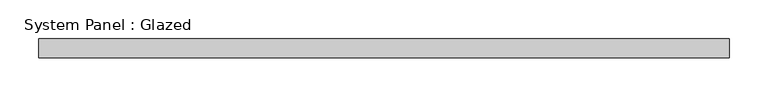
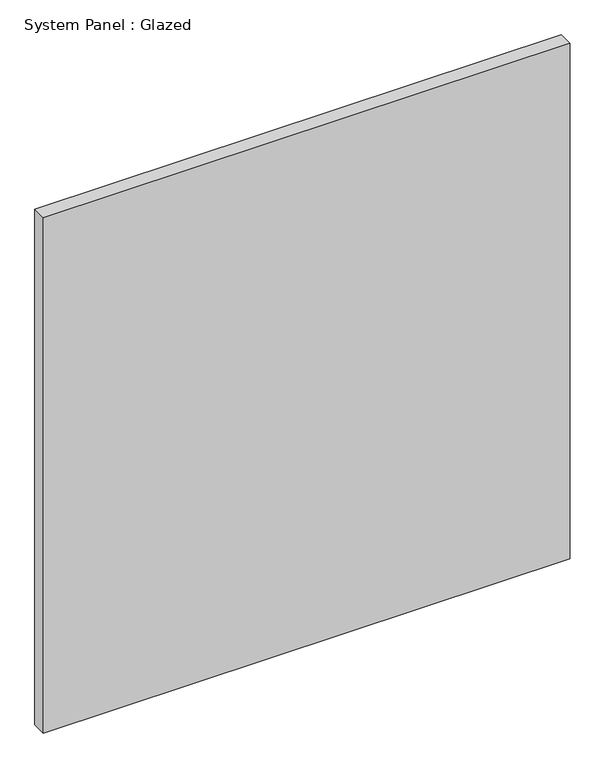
"""IFC4 building model written with IfcOpenShell, lengths in millimetres: plate geometry, System Panel : Glazed."""

from ifc_helpers import new_model, si_unit, origin, origin_with_axes, place, context, project, spatial, polyline, outline, extrude, source, transform, mapped, element, save


def system_panel_glazed_eda91ae9(model_context):
    return source(origin(), model_context, "Body", "SweptSolid", [
        extrude(outline(polyline([(447.9999975, -72.5), (-447.9999975, -72.5), (-447.9999975, -47.5), (447.9999975, -47.5), (447.9999975, -72.5)])), origin_with_axes(), (0.0, 0.0, 1.0), 926.3515371),
    ])


if __name__ == "__main__":
    model = new_model("IFC4")
    model_context = context("Model", 3, world=origin())
    ifc_project = project(units=[si_unit("LENGTHUNIT", "METRE", prefix="MILLI")], contexts=[model_context])
    site = spatial("IfcSite", under=ifc_project)
    building = spatial("IfcBuilding", under=site)
    placement = place(None, origin())
    system_panel_glazed_shape = system_panel_glazed_eda91ae9(model_context)
    element("IfcPlate", 1, ObjectType="System Panel : Glazed", at=placement, inside=building, context=model_context, shape_type="MappedRepresentation", body=[
        mapped(system_panel_glazed_shape, transform((0.0, 0.0, 0.0), x_axis=(1.0, 0.0, 0.0), y_axis=(0.0, 1.0, 0.0), z_axis=(0.0, 0.0, 1.0))),
    ])
    save(model, "model.ifc")
